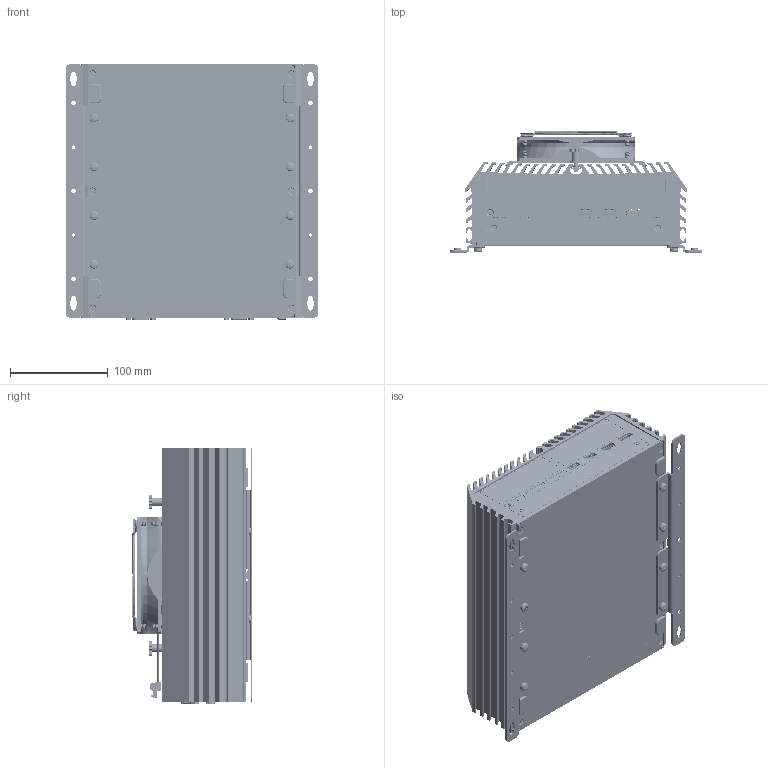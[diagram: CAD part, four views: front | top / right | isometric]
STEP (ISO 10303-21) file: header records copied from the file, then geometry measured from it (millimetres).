
FILE_DESCRIPTION (( 'STEP AP214' ), '1' );
FILE_NAME ('1-DS-1400+Wall Mount+12¡¨-¥~Æ[-20230419.STEP', '2026-07-27T05:34:27', ( '' ), ( '' ), 'SwSTEP 2.0', 'SolidWorks 2014', '' );
FILE_SCHEMA (( 'AUTOMOTIVE_DESIGN' ));
Length unit declared in the file: millimetre
Products named in the file (54): 1-DS-1400+Wall Mount+12”-外觀-20230419; VOLUMENK_S_VRPER1-4576_2_2; 23-D0351500040_CN2_MINIDIN_USBX2; DS-1300-Front Bezel(M1-407130024100)-20200311; PWR_BTN_TC003; Top Cover(M1-407120006300)-DS-1200-金金-20181015; 外接電源B-4腳; ROTOR_120MM_FAN_2_2; MANIFOLD_SOLID_BREP_905_1_1; Screw-耐落-沙拉-120-星型-T10-黑-M3x5(M3-N103052230); RITILA_ASM_1_ASM_4_ASM; 23-D0341500040_FAN2_ECH350R_3P_1LAYER; 12_ASM_23_ASM; DS-MEC KIT-Universal Bracket(M1-ZZZZ3613001); MANIFOLD_SOLID_BREP_906_1_1; MANIFOLD_SOLID_BREP_904_1_1; DS-1400-PCBA-ASM-20230419; MANIFOLD_SOLID_BREP_907_1_1; MANIFOLD_SOLID_BREP_899_1_1; DS-1200-Bottom Cover asm-20200406; WHDM-19FLBSDR; MANIFOLD_SOLID_BREP_903_1_1; NUT-M5; Screw-耐落-沙拉-90-星型-T10-黑-M3x8(M3-N103082260); Screw-丸頭-十字-外齒-M5x8(M3-SCREAB00002); MANIFOLD_SOLID_BREP_902_1_1; DS-1300-Rear Bezel(M1-407130034100)-20200311; DS-1200-Top Cover asm-金金-20180402; DS-Wall Mount Bracket(M1-ZZZZ3611004); RUUVI_1_1; DS-1300-Front Bezel-symbol_panel(M0-ZZZZ5C30009)-20200923; Screw-丸頭-十字-耐落-SW-M5x6(M3-SCREAB00001); MANIFOLD_SOLID_BREP_900_1_1; 23-D0351500040_CN1_ECHB350R-04P; RUM2JA-KFJC-BCB-0R; D330H1SL72211DD0; 銅柱-4-4OUNC-4.8_11.8H(M3-COSD6L00000)東莞?輝; 12-PLATE_9; 23-D0242300200_DP1_DISPLAYPORT; D20H1P1PA1X2A111N2 (3D)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
Assembly tree (94 placements, depth 4):
  1-DS-1400+Wall Mount+12”-外觀-20230419
    DS-1400-PCBA-ASM-20230419
      DS-1400-Main Board asm-20221108
        23-D0351500040_CN1_ECHB350R-04P
        AUTIO_2IN1
        D20H1P1PA1X2A111N2 (3D)
        23-D0351500040_CN2_MINIDIN_USBX2
        D330H1SL72211DD0
        23-D0242300200_DP1_DISPLAYPORT  x2
        23-D0341500040_FAN2_ECH350R_3P_1LAYER
        23-D0341500030_DC_IN1_5EHDRM-03P_8
        PWR_BTN_TC003
        USB-3.0-SMT-T.H(122-0921NX0504)  x2
        WHDM-19FLBSDR
        RUM2JA-KFJC-BCB-0R  x2
    DS-1300-Front Bezel(M1-407130024100)-20200311
    DS-1300-Front Bezel-symbol_panel(M0-ZZZZ5C30009)-20200923
    DS-1300-Front Open Bezel(M1-407130084101)
    DS-1200-Front Bezel Matching Bezel(M1-407120084100)  x2
    DS-1300-Rear Bezel(M1-407130034100)-20200311
    DS-MEC KIT-Universal Bracket(M1-ZZZZ3613001)  x2
    DS-1200-Top Cover asm-金金-20180402
      Top Cover(M1-407120006300)-DS-1200-金金-20181015
    DS-1200-Bottom Cover asm-20200406
      DS-1200-Bottom Cover(M1-407120011200)-20180821
      Rubber Foot Shore(M4-RUFT0100001)  x4
    Screw-耐落-沙拉-120-星型-T10-黑-M3x5(M3-N103052230)  x5
    Screw-耐落-沙拉-90-星型-T10-黑-M3x8(M3-N103082260)  x6
    Screw-沙拉-120-星型-T10+E型扣-黑-M3x13(M3-1103132270+M3-402004050415)  x2
    Screw-丸頭-十字-外齒-M5x8(M3-SCREAB00002)
    Hole Plugs(M4-RUBR0100004)-M06V0  x2
    DS-Wall Mount Bracket(M1-ZZZZ3611004)  x2
    Screw-丸頭-十字-耐落-SW-M5x6(M3-SCREAB00001)  x8
    銅柱-4-4OUNC-4.8_11.8H(M3-COSD6L00000)東莞?輝  x6
    12_ASM_23_ASM
      12-PLATE_9
      M5-SP_3  x2
      120_X_120_X_25_DC_FAN_ASM_3_ASM_ASM
        ROTOR_120MM_FAN_2_2
        VOLUMENK_S_VRPER1-4576_2_2
      NUT-M5  x2
      RUUVI_1_1  x8
      RITILA_ASM_1_ASM_4_ASM
        MANIFOLD_SOLID_BREP_899_1_1
        MANIFOLD_SOLID_BREP_900_1_1
        MANIFOLD_SOLID_BREP_901_1_1
        MANIFOLD_SOLID_BREP_902_1_1
        MANIFOLD_SOLID_BREP_903_1_1
        MANIFOLD_SOLID_BREP_904_1_1
        MANIFOLD_SOLID_BREP_905_1_1
        MANIFOLD_SOLID_BREP_906_1_1
        MANIFOLD_SOLID_BREP_907_1_1
        MANIFOLD_SOLID_BREP_908_1_1
      外接電源B-4腳
Bounding box: 259 x 123.95 x 262.9 mm (x, y, z)
Volume: 1375535.2 mm3; surface area: 809724.9 mm2
Topology: 117 solids, 285 shells, 24858 faces, 69478 edges, 44943 vertices
Faces by surface type: plane 15938, cylinder 6238, bspline 2248, cone 326, torus 54, sphere 54
Entity records: 707701 total; most frequent: CARTESIAN_POINT 202330, ORIENTED_EDGE 91750, DIRECTION 72510, EDGE_CURVE 45988, VECTOR 31364, LINE 31364, VERTEX_POINT 29814, AXIS2_PLACEMENT_3D 20573
